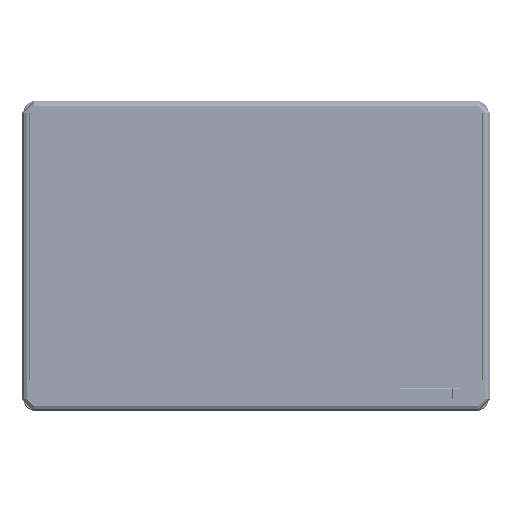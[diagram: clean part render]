
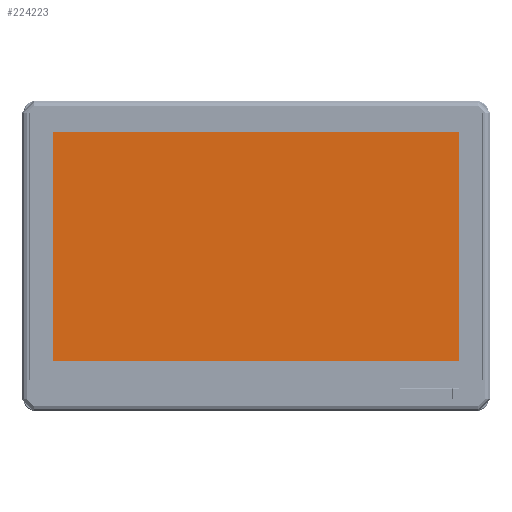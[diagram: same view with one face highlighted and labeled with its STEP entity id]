
A CAD part, top view. The second image highlights one B-rep face of the part: STEP entity #224223.
In plain terms, the highlighted planar face has unit normal (0, 0, 1).
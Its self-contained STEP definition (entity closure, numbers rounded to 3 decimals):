
#18639 = ORIENTED_EDGE ( 'NONE', *, *, #668176, .F. ) ;
#35864 = ORIENTED_EDGE ( 'NONE', *, *, #365005, .F. ) ;
#36660 = VERTEX_POINT ( 'NONE', #291890 ) ;
#107720 = FACE_OUTER_BOUND ( 'NONE', #854991, .T. ) ;
#148526 = VERTEX_POINT ( 'NONE', #226812 ) ;
#148731 = CIRCLE ( 'NONE', #593419, 0.25 ) ;
#152716 = CARTESIAN_POINT ( 'NONE',  ( -212.182, 106.794, 409.787 ) ) ;
#154856 = DIRECTION ( 'NONE',  ( 1., 0., 0. ) ) ;
#183329 = EDGE_CURVE ( 'NONE', #257728, #652943, #521410, .T. ) ;
#223990 = CARTESIAN_POINT ( 'NONE',  ( -212.182, -86.746, 409.787 ) ) ;
#224223 = ADVANCED_FACE ( 'NONE', ( #107720, #604479 ), #290404, .T. ) ;
#224520 = CARTESIAN_POINT ( 'NONE',  ( -212.182, -86.746, 409.787 ) ) ;
#226812 = CARTESIAN_POINT ( 'NONE',  ( 132.048, 106.794, 409.787 ) ) ;
#226834 = DIRECTION ( 'NONE',  ( 0., 0., 1. ) ) ;
#257728 = VERTEX_POINT ( 'NONE', #805528 ) ;
#267937 = EDGE_CURVE ( 'NONE', #148526, #36660, #298451, .T. ) ;
#290404 = PLANE ( 'NONE',  #614871 ) ;
#291890 = CARTESIAN_POINT ( 'NONE',  ( -212.182, 106.794, 409.787 ) ) ;
#298451 = LINE ( 'NONE', #586356, #671151 ) ;
#319902 = DIRECTION ( 'NONE',  ( 0., 1., 0. ) ) ;
#359158 = VERTEX_POINT ( 'NONE', #440745 ) ;
#360019 = DIRECTION ( 'NONE',  ( 1., 0., 0. ) ) ;
#365005 = EDGE_CURVE ( 'NONE', #359158, #652665, #855794, .T. ) ;
#408599 = LINE ( 'NONE', #152716, #429465 ) ;
#429465 = VECTOR ( 'NONE', #543526, 1000. ) ;
#438006 = CARTESIAN_POINT ( 'NONE',  ( -40.069, 10.024, 409.787 ) ) ;
#440745 = CARTESIAN_POINT ( 'NONE',  ( -40.319, 10.024, 409.787 ) ) ;
#446413 = EDGE_LOOP ( 'NONE', ( #18639, #35864 ) ) ;
#452108 = DIRECTION ( 'NONE',  ( 1., 0., 0. ) ) ;
#456942 = VECTOR ( 'NONE', #319902, 1000. ) ;
#476528 = DIRECTION ( 'NONE',  ( 0., 0., 1. ) ) ;
#484160 = CARTESIAN_POINT ( 'NONE',  ( 132.048, -86.746, 409.787 ) ) ;
#516742 = ORIENTED_EDGE ( 'NONE', *, *, #183329, .T. ) ;
#521410 = LINE ( 'NONE', #224520, #718388 ) ;
#522546 = EDGE_CURVE ( 'NONE', #652943, #148526, #829971, .T. ) ;
#542790 = DIRECTION ( 'NONE',  ( -1., 0., 0. ) ) ;
#543526 = DIRECTION ( 'NONE',  ( 0., -1., 0. ) ) ;
#551641 = DIRECTION ( 'NONE',  ( 1., 0., 0. ) ) ;
#586356 = CARTESIAN_POINT ( 'NONE',  ( -212.182, 106.794, 409.787 ) ) ;
#593419 = AXIS2_PLACEMENT_3D ( 'NONE', #438006, #707067, #452108 ) ;
#604479 = FACE_BOUND ( 'NONE', #446413, .T. ) ;
#614871 = AXIS2_PLACEMENT_3D ( 'NONE', #223990, #226834, #360019 ) ;
#649774 = CARTESIAN_POINT ( 'NONE',  ( -39.819, 10.024, 409.787 ) ) ;
#652665 = VERTEX_POINT ( 'NONE', #649774 ) ;
#652943 = VERTEX_POINT ( 'NONE', #484160 ) ;
#668176 = EDGE_CURVE ( 'NONE', #652665, #359158, #148731, .T. ) ;
#671151 = VECTOR ( 'NONE', #542790, 1000. ) ;
#707067 = DIRECTION ( 'NONE',  ( 0., 0., 1. ) ) ;
#708050 = ORIENTED_EDGE ( 'NONE', *, *, #522546, .T. ) ;
#710723 = CARTESIAN_POINT ( 'NONE',  ( 132.048, 106.794, 409.787 ) ) ;
#718388 = VECTOR ( 'NONE', #154856, 1000. ) ;
#732564 = EDGE_CURVE ( 'NONE', #36660, #257728, #408599, .T. ) ;
#763965 = AXIS2_PLACEMENT_3D ( 'NONE', #815157, #476528, #551641 ) ;
#805528 = CARTESIAN_POINT ( 'NONE',  ( -212.182, -86.746, 409.787 ) ) ;
#815157 = CARTESIAN_POINT ( 'NONE',  ( -40.069, 10.024, 409.787 ) ) ;
#824222 = ORIENTED_EDGE ( 'NONE', *, *, #732564, .T. ) ;
#829971 = LINE ( 'NONE', #710723, #456942 ) ;
#851427 = ORIENTED_EDGE ( 'NONE', *, *, #267937, .T. ) ;
#854991 = EDGE_LOOP ( 'NONE', ( #824222, #516742, #708050, #851427 ) ) ;
#855794 = CIRCLE ( 'NONE', #763965, 0.25 ) ;
